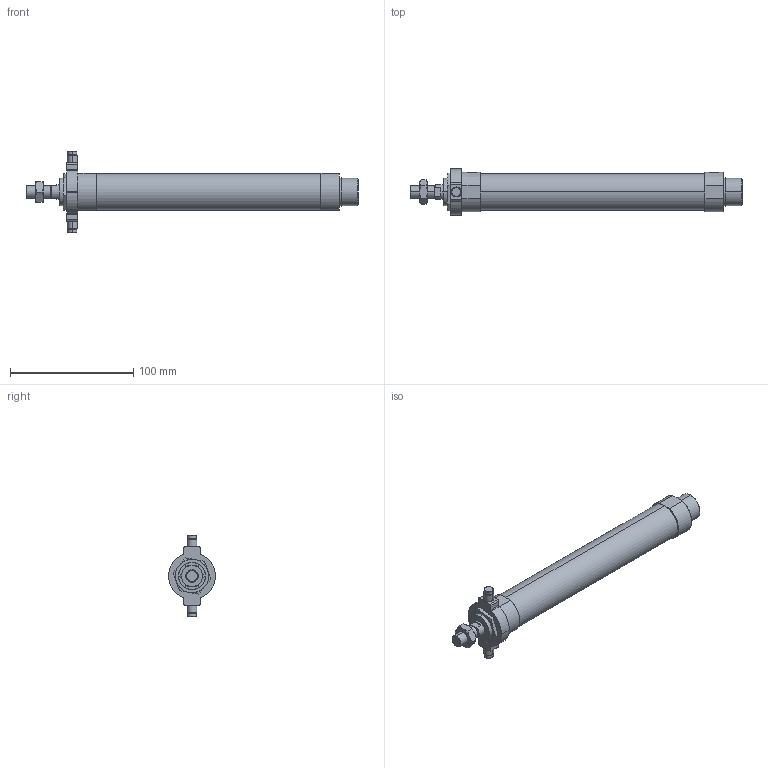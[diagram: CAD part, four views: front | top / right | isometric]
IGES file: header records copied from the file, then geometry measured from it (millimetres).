
Start section: SolidWorks IGES file using analytic representation for surfaces
Global section: file name: C:\Users\Toshiba\Desktop\J#2-25-150-T.IGS; native system: SolidWorks 2014; preprocessor: SolidWorks 2014; author: Toshiba; date: 160308.152808; units: millimetre
Bounding box: 269 x 38 x 66 mm (x, y, z)
Surface area: 32086.6 mm2 (no closed solid volume)
Topology: 0 solids, 0 shells, 136 faces, 2248 edges, 2244 vertices
Faces by surface type: bspline 71, revolution 65
